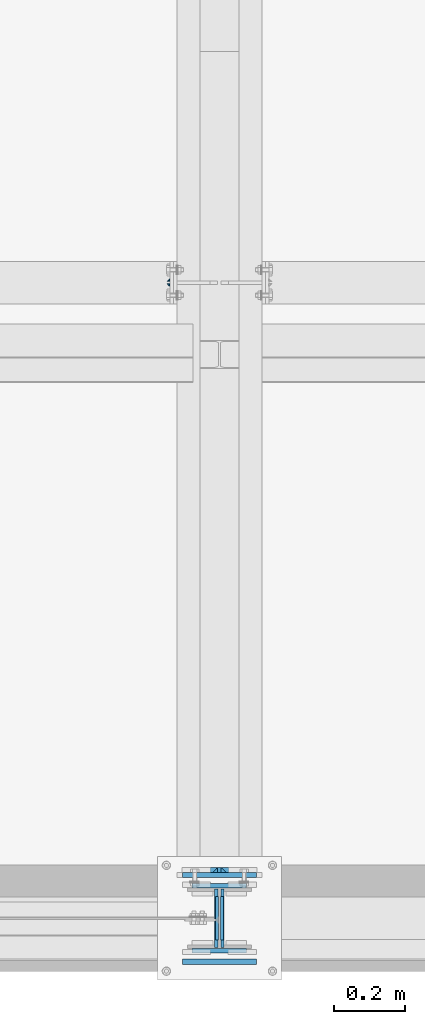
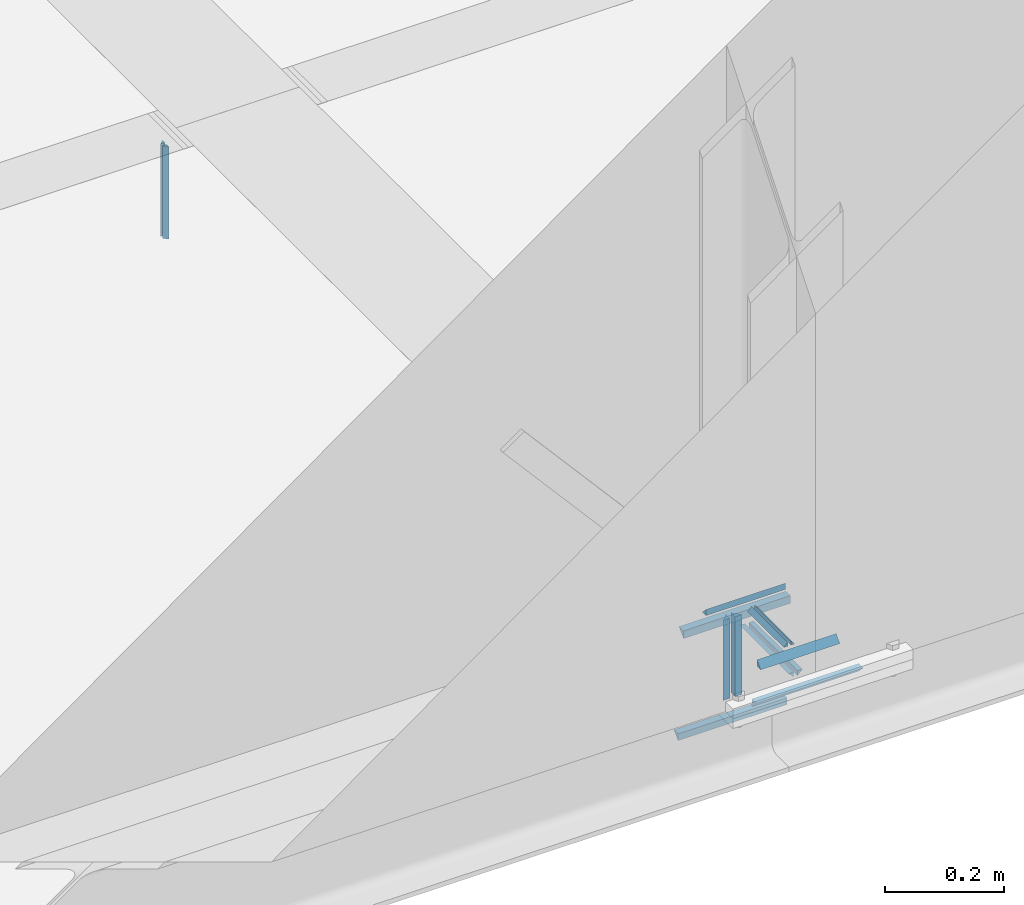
# One storey, part 10 of 66: 21 fasteners.
"""IFC4 building model written with IfcOpenShell, lengths in metres."""

from ifc_helpers import new_model, si_unit, frame, origin_with_axes, place, context, project, spatial, polyline, outline, extrude, type_object, element, save


model = new_model("IFC4")

# Units and contexts
model_context = context("Model", 3, precision=1e-05, world=origin_with_axes())
ifc_project = project(units=[si_unit("LENGTHUNIT", "METRE"), si_unit("AREAUNIT", "SQUARE_METRE"), si_unit("VOLUMEUNIT", "CUBIC_METRE"), si_unit("MASSUNIT", "GRAM", prefix="KILO"), si_unit("TIMEUNIT", "SECOND"), si_unit("PLANEANGLEUNIT", "RADIAN"), si_unit("SOLIDANGLEUNIT", "STERADIAN"), si_unit("THERMODYNAMICTEMPERATUREUNIT", "DEGREE_CELSIUS")], contexts=[model_context])

# Site, building, storey
placement_1 = place(None, origin_with_axes())
site = spatial("IfcSite", under=ifc_project, at=placement_1, Name="Italia", CompositionType="ELEMENT")
building = spatial("IfcBuilding", under=site, at=placement_1, Name="Uffici", CompositionType="ELEMENT")
storey_placement = place(None, frame((0.0, 0.0, 3.299999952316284), z_axis=(0.0, 0.0, 1.0), x_axis=(1.0, 0.0, 0.0)))
storey = spatial("IfcBuildingStorey", under=building, at=storey_placement, Name="Storey 1", CompositionType="ELEMENT", Elevation=3.299999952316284)

# Fasteners
fastener_type_1 = type_object("IfcFastenerType", Name="Collegamento -002_-001", PredefinedType="WELD")
placement_2 = place(placement_1, origin_with_axes())
fastener_1_placement = place(placement_2, origin_with_axes())
element("IfcFastener", 1, at=fastener_1_placement, inside=storey, type_object=fastener_type_1, Name="Collegamento -002_-001", context=model_context, shape_type="SweptSolid", body=[
    extrude(outline(polyline([(0.0, 0.0), (0.00792813, 0.00817347), (0.00792813, 0.0), (0.0, 0.0)])), frame((3.06505, 1.78569, 3.08475), z_axis=(0.0, 0.0, 1.0), x_axis=(0.0, 1.0, 0.0)), (0.0, 0.0, 1.0), 0.1905),
])
fastener_type_2 = type_object("IfcFastenerType", Name="Collegamento -002_-001", PredefinedType="WELD")
fastener_2_placement = place(placement_2, origin_with_axes())
element("IfcFastener", 2, at=fastener_2_placement, inside=storey, type_object=fastener_type_2, Name="Collegamento -002_-001", context=model_context, shape_type="SweptSolid", body=[
    extrude(outline(polyline([(0.0, 0.0), (-0.00792813, -0.00817347), (-0.00792813, 0.0), (0.0, 0.0)])), frame((3.06505, 1.80764, 3.27525), z_axis=(0.0, 0.0, -1.0), x_axis=(0.0, 1.0, 0.0)), (0.0, 0.0, 1.0), 0.1905),
])
fastener_type_3 = type_object("IfcFastenerType", Name="Collegamento -002_-001", PredefinedType="WELD")
fastener_3_placement = place(placement_2, origin_with_axes())
element("IfcFastener", 3, at=fastener_3_placement, inside=storey, type_object=fastener_type_3, Name="Collegamento -002_-001", context=model_context, shape_type="SweptSolid", body=[
    extrude(outline(polyline([(0.0, 0.0), (0.00792813, 0.00817347), (0.00792813, 0.0), (0.0, 0.0)])), frame((3.06505, 1.78569, 3.08475), z_axis=(0.0, 0.0, 1.0), x_axis=(0.0, 1.0, 0.0)), (0.0, 0.0, 1.0), 0.1905),
])
fastener_type_4 = type_object("IfcFastenerType", Name="Collegamento -002_-001", PredefinedType="WELD")
fastener_4_placement = place(placement_2, origin_with_axes())
element("IfcFastener", 4, at=fastener_4_placement, inside=storey, type_object=fastener_type_4, Name="Collegamento -002_-001", context=model_context, shape_type="SweptSolid", body=[
    extrude(outline(polyline([(0.0, 0.0), (-0.00792813, -0.00817347), (-0.00792813, 0.0), (0.0, 0.0)])), frame((3.06505, 1.80764, 3.27525), z_axis=(0.0, 0.0, -1.0), x_axis=(0.0, 1.0, 0.0)), (0.0, 0.0, 1.0), 0.1905),
])
fastener_type_5 = type_object("IfcFastenerType", Name="Collegamenti 0101_-001 0102_-002 0103_-003 0104_-004", PredefinedType="WELD")
fastener_5_placement = place(placement_2, origin_with_axes())
element("IfcFastener", 5, at=fastener_5_placement, inside=storey, type_object=fastener_type_5, Name="Collegamenti 0101_-001 0102_-002 0103_-003 0104_-004", context=model_context, shape_type="SweptSolid", body=[
    extrude(outline(polyline([(0.0, 0.0), (0.0141734, -0.0137482), (0.0, -0.0137482), (0.0, 0.0)])), frame((3.1863, 0.12995, 3.09795), z_axis=(0.0, 0.0, 1.0), x_axis=(0.0, 1.0, 0.0)), (0.0, 0.0, 1.0), 0.1641),
])
fastener_type_6 = type_object("IfcFastenerType", Name="Collegamenti 0101_-001 0102_-002 0103_-003 0104_-004", PredefinedType="WELD")
fastener_6_placement = place(placement_2, origin_with_axes())
element("IfcFastener", 6, at=fastener_6_placement, inside=storey, type_object=fastener_type_6, Name="Collegamenti 0101_-001 0102_-002 0103_-003 0104_-004", context=model_context, shape_type="SweptSolid", body=[
    extrude(outline(polyline([(0.0, 0.0), (0.0141734, -0.0137482), (0.0, -0.0137482), (0.0, 0.0)])), frame((3.2237, 0.12995, 3.26205), z_axis=(0.0, 0.0, -1.0), x_axis=(0.0, 1.0, 0.0)), (0.0, 0.0, 1.0), 0.1641),
])
fastener_type_7 = type_object("IfcFastenerType", Name="Collegamenti 0101_-001 0102_-002 0103_-003 0104_-004", PredefinedType="WELD")
fastener_7_placement = place(placement_2, origin_with_axes())
element("IfcFastener", 7, at=fastener_7_placement, inside=storey, type_object=fastener_type_7, Name="Collegamenti 0101_-001 0102_-002 0103_-003 0104_-004", context=model_context, shape_type="SweptSolid", body=[
    extrude(outline(polyline([(0.0, 0.0), (-0.0141733, 0.0137482), (0.0, 0.0137482), (0.0, 0.0)])), frame((3.31105, 0.12995, 3.0463), z_axis=(-1.0, 0.0, 0.0), x_axis=(0.0, -1.0, 0.0)), (0.0, 0.0, 1.0), 0.2121),
])
fastener_type_8 = type_object("IfcFastenerType", Name="Collegamenti 0101_-001 0102_-002 0103_-003 0104_-004", PredefinedType="WELD")
fastener_8_placement = place(placement_2, origin_with_axes())
element("IfcFastener", 8, at=fastener_8_placement, inside=storey, type_object=fastener_type_8, Name="Collegamenti 0101_-001 0102_-002 0103_-003 0104_-004", context=model_context, shape_type="SweptSolid", body=[
    extrude(outline(polyline([(0.0, 0.0), (0.0141734, -0.0137482), (0.0, -0.0137482), (0.0, 0.0)])), frame((3.1863, 0.12995, 3.09795), z_axis=(0.0, 0.0, 1.0), x_axis=(0.0, 1.0, 0.0)), (0.0, 0.0, 1.0), 0.1641),
])
fastener_type_9 = type_object("IfcFastenerType", Name="Collegamenti 0101_-001 0102_-002 0103_-003 0104_-004", PredefinedType="WELD")
fastener_9_placement = place(placement_2, origin_with_axes())
element("IfcFastener", 9, at=fastener_9_placement, inside=storey, type_object=fastener_type_9, Name="Collegamenti 0101_-001 0102_-002 0103_-003 0104_-004", context=model_context, shape_type="SweptSolid", body=[
    extrude(outline(polyline([(0.0, 0.0), (0.0141734, -0.0137482), (0.0, -0.0137482), (0.0, 0.0)])), frame((3.2237, 0.12995, 3.26205), z_axis=(0.0, 0.0, -1.0), x_axis=(0.0, 1.0, 0.0)), (0.0, 0.0, 1.0), 0.1641),
])
fastener_type_10 = type_object("IfcFastenerType", Name="Collegamenti 0101_0201 0102_0202 0103_0203 0104_0204 0105_0205", PredefinedType="WELD")
fastener_10_placement = place(placement_2, origin_with_axes())
element("IfcFastener", 10, at=fastener_10_placement, inside=storey, type_object=fastener_type_10, Name="Collegamenti 0101_0201 0102_0202 0103_0203 0104_0204 0105_0205", context=model_context, shape_type="SweptSolid", body=[
    extrude(outline(polyline([(0.0, 0.0), (0.0127782, 0.0131733), (0.0127782, 0.0), (0.0, 0.0)])), frame((3.28205, 0.0982282, 3.31995), z_axis=(-1.0, 0.0, 0.0), x_axis=(0.0, -1.0, 0.0)), (0.0, 0.0, 1.0), 0.1541),
])
fastener_type_11 = type_object("IfcFastenerType", Name="Collegamenti 0101_0201 0102_0202 0103_0203 0104_0204 0105_0205", PredefinedType="WELD")
fastener_11_placement = place(placement_2, origin_with_axes())
element("IfcFastener", 11, at=fastener_11_placement, inside=storey, type_object=fastener_type_11, Name="Collegamenti 0101_0201 0102_0202 0103_0203 0104_0204 0105_0205", context=model_context, shape_type="SweptSolid", body=[
    extrude(outline(polyline([(0.0, 0.0), (0.0127782, 0.0131733), (0.0127782, 0.0), (0.0, 0.0)])), frame((3.12795, -0.0982282, 3.31995), z_axis=(1.0, 0.0, 0.0), x_axis=(0.0, 1.0, 0.0)), (0.0, 0.0, 1.0), 0.1541),
])
fastener_type_12 = type_object("IfcFastenerType", Name="Collegamenti 0101_0201 0102_0202 0103_0203 0104_0204 0105_0205", PredefinedType="WELD")
fastener_12_placement = place(placement_2, origin_with_axes())
element("IfcFastener", 12, at=fastener_12_placement, inside=storey, type_object=fastener_type_12, Name="Collegamenti 0101_0201 0102_0202 0103_0203 0104_0204 0105_0205", context=model_context, shape_type="SweptSolid", body=[
    extrude(outline(polyline([(0.0, 0.0), (0.00792813, 0.00817347), (0.00792813, 0.0), (0.0, 0.0)])), frame((3.21588, -0.06105, 3.31995), z_axis=(0.0, 1.0, 0.0), x_axis=(-1.0, 0.0, 0.0)), (0.0, 0.0, 1.0), 0.1221),
])
fastener_type_13 = type_object("IfcFastenerType", Name="Collegamenti 0101_0201 0102_0202 0103_0203 0104_0204 0105_0205", PredefinedType="WELD")
fastener_13_placement = place(placement_2, origin_with_axes())
element("IfcFastener", 13, at=fastener_13_placement, inside=storey, type_object=fastener_type_13, Name="Collegamenti 0101_0201 0102_0202 0103_0203 0104_0204 0105_0205", context=model_context, shape_type="SweptSolid", body=[
    extrude(outline(polyline([(0.0, 0.0), (0.00792813, 0.00817347), (0.00792813, 0.0), (0.0, 0.0)])), frame((3.19412, 0.06105, 3.31995), z_axis=(0.0, -1.0, 0.0), x_axis=(1.0, 0.0, 0.0)), (0.0, 0.0, 1.0), 0.1221),
])
fastener_type_14 = type_object("IfcFastenerType", Name="Collegamenti 0101_0201 0102_0202 0103_0203 0104_0204 0105_0205", PredefinedType="WELD")
fastener_14_placement = place(placement_2, origin_with_axes())
element("IfcFastener", 14, at=fastener_14_placement, inside=storey, type_object=fastener_type_14, Name="Collegamenti 0101_0201 0102_0202 0103_0203 0104_0204 0105_0205", context=model_context, shape_type="SweptSolid", body=[
    extrude(outline(polyline([(0.0, 0.0), (0.0127782, 0.0131733), (0.0127782, 0.0), (0.0, 0.0)])), frame((3.28205, 0.0982282, 3.31995), z_axis=(-1.0, 0.0, 0.0), x_axis=(0.0, -1.0, 0.0)), (0.0, 0.0, 1.0), 0.1541),
])
fastener_type_15 = type_object("IfcFastenerType", Name="Collegamenti 0101_0201 0102_0202 0103_0203 0104_0204 0105_0205", PredefinedType="WELD")
fastener_15_placement = place(placement_2, origin_with_axes())
element("IfcFastener", 15, at=fastener_15_placement, inside=storey, type_object=fastener_type_15, Name="Collegamenti 0101_0201 0102_0202 0103_0203 0104_0204 0105_0205", context=model_context, shape_type="SweptSolid", body=[
    extrude(outline(polyline([(0.0, 0.0), (0.0127782, 0.0131733), (0.0127782, 0.0), (0.0, 0.0)])), frame((3.12795, -0.0982282, 3.31995), z_axis=(1.0, 0.0, 0.0), x_axis=(0.0, 1.0, 0.0)), (0.0, 0.0, 1.0), 0.1541),
])
fastener_type_16 = type_object("IfcFastenerType", Name="Collegamenti 0101_0201 0102_0202 0103_0203 0104_0204 0105_0205", PredefinedType="WELD")
fastener_16_placement = place(placement_2, origin_with_axes())
element("IfcFastener", 16, at=fastener_16_placement, inside=storey, type_object=fastener_type_16, Name="Collegamenti 0101_0201 0102_0202 0103_0203 0104_0204 0105_0205", context=model_context, shape_type="SweptSolid", body=[
    extrude(outline(polyline([(0.0, 0.0), (0.00792813, 0.00817347), (0.00792813, 0.0), (0.0, 0.0)])), frame((3.21588, -0.06105, 3.31995), z_axis=(0.0, 1.0, 0.0), x_axis=(-1.0, 0.0, 0.0)), (0.0, 0.0, 1.0), 0.1221),
])
fastener_type_17 = type_object("IfcFastenerType", Name="Collegamenti 0101_0201 0102_0202 0103_0203 0104_0204 0105_0205", PredefinedType="WELD")
fastener_17_placement = place(placement_2, origin_with_axes())
element("IfcFastener", 17, at=fastener_17_placement, inside=storey, type_object=fastener_type_17, Name="Collegamenti 0101_0201 0102_0202 0103_0203 0104_0204 0105_0205", context=model_context, shape_type="SweptSolid", body=[
    extrude(outline(polyline([(0.0, 0.0), (0.00792813, 0.00817347), (0.00792813, 0.0), (0.0, 0.0)])), frame((3.19412, 0.06105, 3.31995), z_axis=(0.0, -1.0, 0.0), x_axis=(1.0, 0.0, 0.0)), (0.0, 0.0, 1.0), 0.1221),
])
fastener_type_18 = type_object("IfcFastenerType", Name="Collegamenti 0101_0201 0102_0202 0103_0203 0104_0204 0105_0205", PredefinedType="WELD")
fastener_18_placement = place(placement_2, origin_with_axes())
element("IfcFastener", 18, at=fastener_18_placement, inside=storey, type_object=fastener_type_18, Name="Collegamenti 0101_0201 0102_0202 0103_0203 0104_0204 0105_0205", context=model_context, shape_type="SweptSolid", body=[
    extrude(outline(polyline([(0.0, 0.0), (0.0153519, -0.0158267), (0.0153519, 0.0), (0.0, 0.0)])), frame((3.30905, 0.130402, 3.27995), z_axis=(-1.0, 0.0, 0.0), x_axis=(0.0, -1.0, 0.0)), (0.0, 0.0, 1.0), 0.2081),
])
fastener_type_19 = type_object("IfcFastenerType", Name="Collegamenti 0101_0201 0102_0202 0103_0203 0104_0204 0105_0205", PredefinedType="WELD")
fastener_19_placement = place(placement_2, origin_with_axes())
element("IfcFastener", 19, at=fastener_19_placement, inside=storey, type_object=fastener_type_19, Name="Collegamenti 0101_0201 0102_0202 0103_0203 0104_0204 0105_0205", context=model_context, shape_type="SweptSolid", body=[
    extrude(outline(polyline([(0.0, 0.0), (0.0153519, -0.0158267), (0.0153519, 0.0), (0.0, 0.0)])), frame((3.10095, -0.130402, 3.27995), z_axis=(1.0, 0.0, 0.0), x_axis=(0.0, 1.0, 0.0)), (0.0, 0.0, 1.0), 0.2081),
])
fastener_type_20 = type_object("IfcFastenerType", Name="Collegamenti 0101_0201 0102_0202 0103_0203 0104_0204 0105_0205", PredefinedType="WELD")
fastener_20_placement = place(placement_2, origin_with_axes())
element("IfcFastener", 20, at=fastener_20_placement, inside=storey, type_object=fastener_type_20, Name="Collegamenti 0101_0201 0102_0202 0103_0203 0104_0204 0105_0205", context=model_context, shape_type="SweptSolid", body=[
    extrude(outline(polyline([(0.0, 0.0), (0.00953197, -0.00982666), (0.00953197, 0.0), (0.0, 0.0)])), frame((3.21833, -0.08205, 3.27995), z_axis=(0.0, 1.0, 0.0), x_axis=(-1.0, 0.0, 0.0)), (0.0, 0.0, 1.0), 0.1641),
])
fastener_type_21 = type_object("IfcFastenerType", Name="Collegamenti 0101_0201 0102_0202 0103_0203 0104_0204 0105_0205", PredefinedType="WELD")
fastener_21_placement = place(placement_2, origin_with_axes())
element("IfcFastener", 21, at=fastener_21_placement, inside=storey, type_object=fastener_type_21, Name="Collegamenti 0101_0201 0102_0202 0103_0203 0104_0204 0105_0205", context=model_context, shape_type="SweptSolid", body=[
    extrude(outline(polyline([(0.0, 0.0), (0.00953197, -0.00982666), (0.00953197, 0.0), (0.0, 0.0)])), frame((3.19167, 0.08205, 3.27995), z_axis=(0.0, -1.0, 0.0), x_axis=(1.0, 0.0, 0.0)), (0.0, 0.0, 1.0), 0.1641),
])

save(model, "model.ifc")
